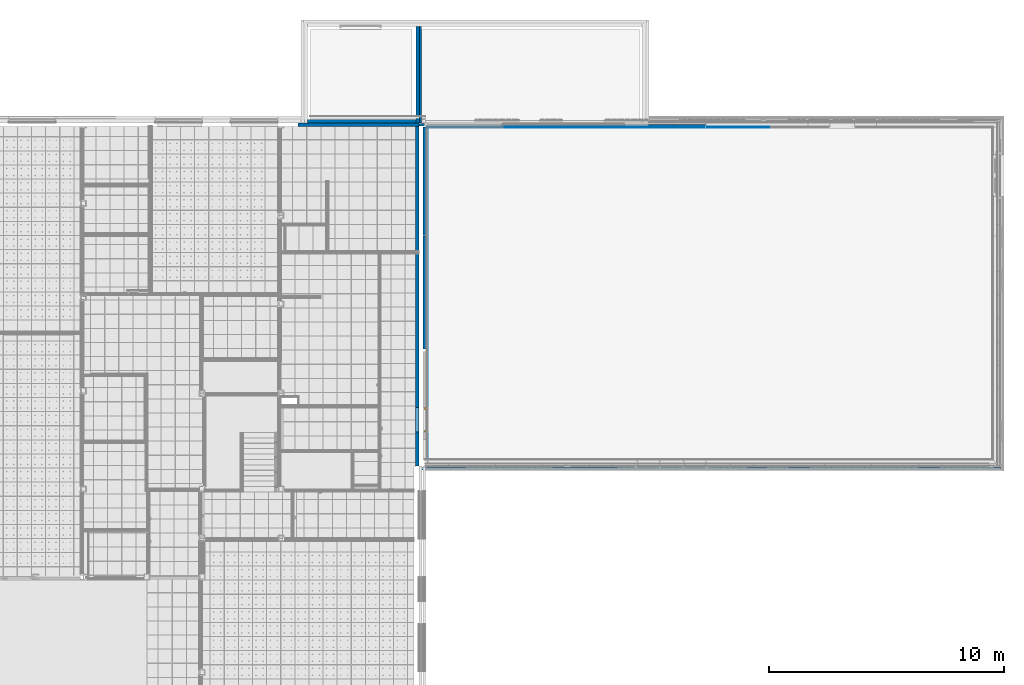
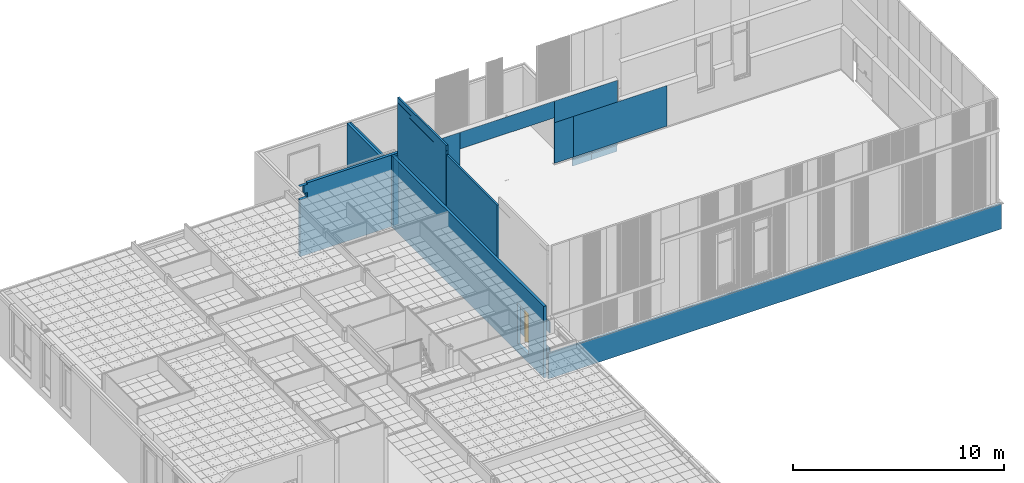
# One storey, part 45 of 338: 17 walls, 1 door, 3 openings.
"""IFC2X3 building model written with IfcOpenShell, lengths in millimetres."""

from ifc_helpers import new_model, entity, si_unit, converted_unit, derived_unit, money_unit, direction, frame, origin_with_axes, place, context, subcontext, project, spatial, faceted_brep, material, type_object, element, fill, save


model = new_model("IFC2X3")

# Units and contexts
model_context = context("Model", 3, precision=0.01, world=origin_with_axes(), true_north=direction((0.0, 1.0)))
plan_context = context("Plan", 3, precision=0.01, world=origin_with_axes(), true_north=direction((0.0, 1.0)))
body_context = subcontext(model_context, "Body", "Model", "MODEL_VIEW")
ifc_project = project(units=[si_unit("LENGTHUNIT", "METRE", prefix="MILLI"), si_unit("AREAUNIT", "SQUARE_METRE"), si_unit("VOLUMEUNIT", "CUBIC_METRE"), converted_unit("PLANEANGLEUNIT", "DEGREE", entity("IfcPlaneAngleMeasure", 0.0174532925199), si_unit("PLANEANGLEUNIT", "RADIAN"), dimensions=[0, 0, 0, 0, 0, 0, 0]), money_unit("EUR"), converted_unit("TIMEUNIT", "Year", entity("IfcTimeMeasure", 31556926.0), si_unit("TIMEUNIT", "SECOND"), dimensions=[0, 0, 1, 0, 0, 0, 0]), si_unit("MASSUNIT", "GRAM", prefix="KILO"), si_unit("THERMODYNAMICTEMPERATUREUNIT", "DEGREE_CELSIUS"), si_unit("LUMINOUSINTENSITYUNIT", "LUMEN"), si_unit("ENERGYUNIT", "JOULE", prefix="MEGA"), derived_unit("THERMALCONDUCTANCEUNIT", [(si_unit("POWERUNIT", "WATT"), 1), (si_unit("LENGTHUNIT", "METRE"), -1), (si_unit("THERMODYNAMICTEMPERATUREUNIT", "KELVIN"), -1)]), derived_unit("SPECIFICHEATCAPACITYUNIT", [(si_unit("ENERGYUNIT", "JOULE"), 1), (si_unit("MASSUNIT", "GRAM", prefix="KILO"), -1), (si_unit("THERMODYNAMICTEMPERATUREUNIT", "KELVIN"), -1)]), derived_unit("MASSDENSITYUNIT", [(si_unit("MASSUNIT", "GRAM", prefix="KILO"), 1), (si_unit("VOLUMEUNIT", "CUBIC_METRE"), -1)])], contexts=[model_context, plan_context])

# Site, building, storey
site_placement = place(None, origin_with_axes())
site = spatial("IfcSite", under=ifc_project, at=site_placement, Name="Fortuinstraat Woensdrecht", CompositionType="ELEMENT")
building_placement = place(site_placement, origin_with_axes())
building = spatial("IfcBuilding", under=site, at=building_placement, Name="IKC Fortuna", CompositionType="ELEMENT")
storey_placement = place(building_placement, origin_with_axes())
storey = spatial("IfcBuildingStorey", under=building, at=storey_placement, Name="00 begane grond", CompositionType="ELEMENT", Elevation=0.0)

# Wall, opening
ifc_material_1 = material(Name="Steen - Kalkzandsteen C")
wall_type_1 = type_object("IfcWallType", Name="Steen - Kalkzandsteen C 150", PredefinedType="NOTDEFINED")
wall_1_placement = place(storey_placement, frame((34833.4270571, 20912.2966283, -485.0), z_axis=(0.0, 0.0, 1.0), x_axis=(0.0, 1.0, 0.0)))
wall_1 = element("IfcWall", 1, at=wall_1_placement, inside=storey, type_object=wall_type_1, material=ifc_material_1, Name="22_Wand_KZST", context=body_context, shape_type="Brep", body=[
    faceted_brep([(2472.2169201, 150.0, 485.0), (2472.2169201, 0.0, 485.0), (2472.2169201, 0.0, 2852.0), (2472.2169201, 150.0, 2852.0), (1438.2169201, 0.0, 485.0), (1438.2169201, 150.0, 485.0), (14434.0, 0.0, 0.0), (14434.0, 0.0, 3995.0), (14434.0, 0.0, 4135.0), (0.0, 0.0, 4135.0), (0.0, 0.0, 0.0), (1438.2169201, 0.0, 2852.0), (1438.2169201, 150.0, 2852.0), (14434.0, 150.0, 0.0), (0.0, 150.0, 0.0), (0.0, 150.0, 4135.0), (14434.0, 150.0, 4135.0)], [[[0, 1, 2, 3]], [[4, 1, 0, 5]], [[6, 7, 8, 9, 10], [4, 11, 2, 1]], [[3, 2, 11, 12]], [[13, 14, 15, 16], [0, 3, 12, 5]], [[11, 4, 5, 12]], [[6, 13, 16, 8, 7]], [[16, 15, 9, 8]], [[10, 9, 15, 14]], [[6, 10, 14, 13]]]),
])
opening_1_placement = place(wall_1_placement, frame((1955.2169201, 0.0, 485.0), z_axis=(0.0, 0.0, 1.0), x_axis=(1.0, 0.0, 0.0)))
element("IfcOpeningElement", 2, at=opening_1_placement, cuts=wall_1, Name="__Leeg", context=body_context, shape_type="Brep", body=[
    faceted_brep([(517.0, 300.0, 0.0), (517.0, 300.0, 2367.0), (517.0, 129.0, 2367.0), (517.0, 129.0, 0.0), (-517.0, 300.0, 0.0), (-517.0, 300.0, 2367.0), (-517.0, 129.0, 2367.0), (-517.0, 129.0, 0.0)], [[[0, 1, 2, 3]], [[0, 4, 5, 1]], [[1, 5, 6, 2]], [[3, 2, 6, 7]], [[4, 0, 3, 7]], [[5, 4, 7, 6]]]),
    faceted_brep([(517.0, -42.0, 2367.0), (517.0, -42.0, 0.0), (517.0, 129.0, 0.0), (517.0, 129.0, 2367.0), (-517.0, -42.0, 2367.0), (-517.0, -42.0, 0.0), (-517.0, 129.0, 0.0), (-517.0, 129.0, 2367.0)], [[[0, 1, 2, 3]], [[0, 4, 5, 1]], [[1, 5, 6, 2]], [[3, 2, 6, 7]], [[4, 0, 3, 7]], [[5, 4, 7, 6]]]),
])

# Walls
wall_2_placement = place(storey_placement, frame((34833.4270571, 35496.2966283, -485.0), z_axis=(0.0, 0.0, 1.0), x_axis=(-1.0, 0.0, 0.0)))
element("IfcWall", 3, at=wall_2_placement, inside=storey, type_object=wall_type_1, material=ifc_material_1, Name="22_Wand_KZST", context=body_context, shape_type="Brep", body=[
    faceted_brep([(-280.0, 0.100000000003, 3995.0), (-280.0, 0.100000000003, 4135.0), (-280.0, 150.0, 4134.9999994), (-280.0, 150.0, 3995.0), (0.0, 0.100000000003, 3995.0), (0.0, 0.100000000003, 4135.0), (0.0, 0.0, 4135.0), (4727.99206067, 0.0, 4135.0), (4727.99206067, 150.0, 4135.0), (4907.99301867, 150.0, 3585.0), (4727.99301267, 150.0, 3585.0), (4727.99301267, 150.0, 3285.0), (5137.53026346, 150.0, 3285.0), (5137.53026346, 150.0, 0.0), (0.0, 150.0, 0.0), (0.0, 150.0, 3995.0), (4727.99206067, 150.0, 4057.5), (5137.53026346, 150.0, 4057.5), (5137.53026346, 150.0, 4057.45750048), (4908.00253787, 150.0, 4057.45750048), (0.0, 0.0, 3995.0), (0.0, 0.0, 0.0), (5137.53026346, 0.0, 0.0), (5137.53026346, 0.0, 3285.0), (4727.99301267, 0.0, 3285.0), (4727.99301267, 0.0, 3585.0000001), (4907.99301867, 0.0, 3585.0000001), (4908.00253787, 0.0, 4057.45750048), (5137.53026346, 0.0, 4057.45750048), (5137.53026346, 0.0, 4057.5), (4727.99206067, 0.0, 4057.5)], [[[0, 1, 2, 3]], [[4, 5, 1, 0]], [[1, 5, 6, 7, 8, 2]], [[9, 10, 11, 12, 13, 14, 15, 3, 2, 8, 16, 17, 18, 19]], [[15, 4, 0, 3]], [[20, 6, 5, 4, 15, 14, 21]], [[7, 6, 20, 21, 22, 23, 24, 25, 26, 27, 28, 29, 30]], [[30, 16, 8, 7]], [[9, 26, 25, 10]], [[11, 10, 25, 24]], [[11, 24, 23, 12]], [[13, 12, 23, 22]], [[13, 22, 21, 14]], [[17, 16, 30, 29]], [[29, 28, 18, 17]], [[18, 28, 27, 19]], [[27, 26, 9, 19]]]),
])
wall_type_2 = type_object("IfcWallType", Name="Steen - Kalkzandsteen C 100", PredefinedType="NOTDEFINED")
wall_3_placement = place(storey_placement, frame((45636.4270571, 35425.2966282, -485.0), z_axis=(0.0, 0.0, 1.0), x_axis=(-1.0, 0.0, 0.0)))
element("IfcWall", 4, at=wall_3_placement, inside=storey, type_object=wall_type_2, material=ifc_material_1, Name="22_Wand_KZST", context=body_context, shape_type="Brep", body=[
    faceted_brep([(0.0, 100.0, 395.0), (0.0, 48.999999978, 395.0), (0.0, 48.999999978, 0.0), (0.0, 0.0, 0.0), (0.0, 0.0, 3214.0), (0.0, 100.0, 3214.0), (1032.99997211, 48.999999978, 395.0), (1032.99997211, 100.0, 395.0), (1032.99997211, 48.999999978, 0.0), (1032.99997211, 0.0, 0.0), (1032.99997211, 0.0, 3214.0), (1032.99997211, 100.0, 3214.0)], [[[0, 1, 2, 3, 4, 5]], [[6, 1, 0, 7]], [[2, 1, 6, 8]], [[3, 2, 8, 9]], [[4, 3, 9, 10]], [[5, 4, 10, 11]], [[11, 7, 0, 5]], [[8, 6, 7, 11, 10, 9]]]),
])
wall_4_placement = place(storey_placement, frame((35082.3258224, 35476.2966283, -485.0), z_axis=(0.0, 0.0, 1.0), x_axis=(-1.0, 0.0, 0.0)))
element("IfcWall", 5, at=wall_4_placement, inside=storey, type_object=wall_type_2, material=ifc_material_1, Name="22_Wand_KZST", context=body_context, shape_type="Brep", body=[
    faceted_brep([(248.898765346, 0.0, 3986.30592684), (248.898765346, 100.0, 3986.30592684), (0.0, 100.0, 3986.30592684), (0.0, 0.0, 3986.30592684), (248.898765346, 0.0, 0.0), (248.898765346, 100.0, 0.0), (0.0, 100.0, 0.0), (0.0, 0.0, 0.0)], [[[0, 1, 2, 3]], [[1, 0, 4, 5]], [[1, 5, 6, 2]], [[7, 3, 2, 6]], [[4, 0, 3, 7]], [[5, 4, 7, 6]]]),
])
wall_5_placement = place(storey_placement, frame((34953.4270571, 35496.2966283, -485.0), z_axis=(0.0, 0.0, 1.0), x_axis=(0.0, 1.0, 0.0)))
element("IfcWall", 6, at=wall_5_placement, inside=storey, type_object=wall_type_2, material=ifc_material_1, Name="22_Wand_KZST", context=body_context, shape_type="Brep", body=[
    faceted_brep([(0.0, 0.0, 3385.0), (0.0, 0.0, 395.0), (4100.0, 0.0, 395.0), (4099.9999989, 0.0, 3385.0), (0.0, 100.0, 3385.0), (0.0, 100.0, 395.0), (4100.0, 100.0, 395.0), (4099.9999989, 100.0, 3385.0)], [[[0, 1, 2, 3]], [[4, 5, 1, 0]], [[5, 6, 2, 1]], [[3, 2, 6, 7]], [[4, 0, 3, 7]], [[7, 6, 5, 4]]]),
])
wall_6_placement = place(storey_placement, frame((35013.4270571, 35325.2966282, -485.0), z_axis=(0.0, 0.0, 1.0), x_axis=(0.0, -1.0, 0.0)))
element("IfcWall", 7, at=wall_6_placement, inside=storey, type_object=wall_type_2, material=ifc_material_1, Name="22_Wand_KZST", context=body_context, shape_type="Brep", body=[
    faceted_brep([(0.0, 0.0, 7065.8), (0.0, 30.050000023, 7065.8), (0.0, 38.5352813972, 7062.28528137), (0.0, 42.050000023, 7053.8), (0.0, 42.050000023, 6876.2), (0.0, 38.5352813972, 6867.71471863), (0.0, 30.050000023, 6864.2), (0.0, 0.0, 6864.2), (4611.0, 30.050000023, 7065.8), (4611.0, 0.0, 7065.8), (4611.0, 38.5352813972, 7062.28528137), (4611.0, 42.050000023, 7053.8), (4611.0, 42.050000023, 6876.2), (4611.0, 38.5352813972, 6867.71471863), (4611.0, 30.050000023, 6864.2), (4611.0, 0.0, 6864.2)], [[[0, 1, 2, 3, 4, 5, 6, 7]], [[8, 1, 0, 9]], [[10, 2, 1, 8]], [[11, 3, 2, 10]], [[12, 4, 3, 11]], [[13, 5, 4, 12]], [[14, 6, 5, 13]], [[15, 7, 6, 14]], [[15, 9, 0, 7]], [[10, 8, 9, 15, 14, 13, 12, 11]]]),
    faceted_brep([(0.0, 0.0, 0.0), (0.0, 0.0, 6855.0), (0.0, 100.000000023, 6855.0), (0.0, 100.0, 0.0), (4611.0, 0.0, 0.0), (4611.0, 0.0, 6855.0), (4611.0, 100.000000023, 6855.0), (4611.0, 100.0, 0.0)], [[[0, 1, 2, 3]], [[4, 5, 1, 0]], [[5, 6, 2, 1]], [[3, 2, 6, 7]], [[0, 3, 7, 4]], [[7, 6, 5, 4]]]),
    faceted_brep([(0.0, 47.950000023, 7053.8), (0.0, 51.4647186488, 7062.28528137), (0.0, 59.950000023, 7065.8), (0.0, 100.000000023, 7065.8), (0.0, 100.000000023, 6864.2), (0.0, 59.950000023, 6864.2), (0.0, 51.4647186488, 6867.71471863), (0.0, 47.950000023, 6876.2), (4611.0, 51.4647186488, 7062.28528137), (4611.0, 47.950000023, 7053.8), (4611.0, 59.950000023, 7065.8), (4611.0, 100.000000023, 7065.8), (4611.0, 100.000000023, 6864.2), (4611.0, 59.950000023, 6864.2), (4611.0, 51.4647186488, 6867.71471863), (4611.0, 47.950000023, 6876.2)], [[[0, 1, 2, 3, 4, 5, 6, 7]], [[8, 1, 0, 9]], [[10, 2, 1, 8]], [[10, 11, 3, 2]], [[11, 12, 4, 3]], [[13, 5, 4, 12]], [[14, 6, 5, 13]], [[15, 7, 6, 14]], [[9, 0, 7, 15]], [[14, 13, 12, 11, 10, 8, 9, 15]]]),
    faceted_brep([(4611.0, 100.0, 7381.72179229), (4611.0, 100.000000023, 7075.0), (0.0, 100.000000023, 7075.0), (0.0, 100.0, 7381.72179229), (4611.0, 0.0, 7381.72179229), (4611.0, 0.0, 7075.0), (0.0, 0.0, 7075.0), (0.0, 0.0, 7381.72179229)], [[[0, 1, 2, 3]], [[4, 5, 1, 0]], [[5, 6, 2, 1]], [[3, 2, 6, 7]], [[3, 7, 4, 0]], [[7, 6, 5, 4]]]),
])
wall_7_placement = place(storey_placement, frame((35013.4270572, 30678.2966282, -485.0), z_axis=(0.0, 0.0, 1.0), x_axis=(0.0, -1.0, 0.0)))
element("IfcWall", 8, at=wall_7_placement, inside=storey, type_object=wall_type_2, material=ifc_material_1, Name="22_Wand_KZST", context=body_context, shape_type="Brep", body=[
    faceted_brep([(0.0, 100.0, 6855.0), (0.0, 0.0, 6855.0), (4792.0, 0.0, 6855.0), (4792.0, 100.0, 6855.0), (0.0, 100.0, 0.0), (0.0, 0.0, 0.0), (4792.0, 0.0, 0.0), (4792.0, 100.0, 0.0)], [[[0, 1, 2, 3]], [[4, 5, 1, 0]], [[1, 5, 6, 2]], [[7, 3, 2, 6]], [[4, 0, 3, 7]], [[5, 4, 7, 6]]]),
])
wall_8_placement = place(storey_placement, frame((47043.4270571, 35425.2966282, -485.0), z_axis=(0.0, 0.0, 1.0), x_axis=(-1.0, 0.0, 0.0)))
element("IfcWall", 9, at=wall_8_placement, inside=storey, type_object=wall_type_2, material=ifc_material_1, Name="22_Wand_KZST", context=body_context, shape_type="Brep", body=[
    faceted_brep([(0.0, 100.0, 395.0), (0.0, 48.999999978, 395.0), (0.0, 48.999999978, 0.0), (0.0, 0.0, 0.0), (0.0, 0.0, 3214.0), (0.0, 100.0, 3214.0), (1407.00000006, 48.999999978, 395.0), (1407.00000006, 100.0, 395.0), (1407.00000006, 48.999999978, 0.0), (1407.00000006, 0.0, 0.0), (1407.00000006, 0.0, 3214.0), (1407.00000006, 100.0, 3214.0)], [[[0, 1, 2, 3, 4, 5]], [[6, 1, 0, 7]], [[2, 1, 6, 8]], [[3, 2, 8, 9]], [[4, 3, 9, 10]], [[5, 4, 10, 11]], [[11, 7, 0, 5]], [[8, 6, 7, 11, 10, 9]]]),
])
ifc_material_2 = material(Name="Steen - Baksteen Accent")
wall_type_3 = type_object("IfcWallType", Name="Steen - Baksteen Accent 100", PredefinedType="NOTDEFINED")
wall_9_placement = place(storey_placement, frame((59593.4270571, 20836.3041182, -483.776097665), z_axis=(0.0, 0.0, 1.0), x_axis=(-1.0, 0.0, 0.0)))
element("IfcWall", 10, at=wall_9_placement, inside=storey, type_object=wall_type_3, material=ifc_material_2, Name="21_Wand_sandwichplaat", context=body_context, shape_type="Brep", body=[
    faceted_brep([(0.0, 50.0027010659, 1458.71632341), (0.0, 50.0027010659, 1457.71632341), (0.0, 100.002701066, 1457.71632341), (0.0, 100.0, 0.0), (0.0, 0.0, 0.0), (0.0, 0.0, 1458.77609766), (0.0, 100.0, 1458.77609766), (0.0, 100.0, 1458.71632341), (24480.0, 50.0027010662, 1457.71632341), (24480.0, 50.0027010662, 1458.71632341), (24480.0, 100.002701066, 1457.71632341), (24480.0, 100.0, 1458.71632341), (24756.9920806, 100.0, 1458.77609766), (24756.9920806, 100.0, 0.0), (24756.9920806, 0.0, 0.0), (24756.9920806, 0.0, 1458.77609766)], [[[0, 1, 2, 3, 4, 5, 6, 7]], [[8, 1, 0, 9]], [[10, 2, 1, 8]], [[10, 11, 7, 6, 12, 13, 3, 2]], [[4, 3, 13, 14]], [[5, 4, 14, 15]], [[6, 5, 15, 12]], [[9, 0, 7, 11]], [[9, 11, 10, 8]], [[13, 12, 15, 14]]]),
])
ifc_material_3 = material(Name="42 Vilton Isonic Wool")
wall_type_4 = type_object("IfcWallType", Name="42 Vilton Isonic Wool 33", PredefinedType="NOTDEFINED")
wall_10_placement = place(storey_placement, frame((35174.9270571, 35325.2966282, 90.0), z_axis=(0.0, 0.0, 1.0), x_axis=(1.0, 0.0, 0.0)))
element("IfcWall", 11, at=wall_10_placement, inside=storey, type_object=wall_type_4, material=ifc_material_3, Name="22_Wand_KZST", context=body_context, shape_type="Brep", body=[
    faceted_brep([(0.0, 0.0, 0.0), (0.0, 0.0, 2350.0), (0.0, 0.0, 3600.0), (3233.49999994, 0.0, 3600.0), (3233.49999994, 0.0, 0.0), (0.0, -33.0, 0.0), (0.0, -33.0, 2350.0), (0.0, -33.0, 3600.0), (3233.49999994, -33.0, 3600.0), (3233.49999994, -33.0, 0.0)], [[[0, 1, 2, 3, 4]], [[5, 6, 7, 2, 1, 0]], [[3, 2, 7, 8]], [[8, 9, 4, 3]], [[9, 5, 0, 4]], [[8, 7, 6, 5, 9]]]),
])
wall_11_placement = place(storey_placement, frame((43573.4270571, 35325.2966282, 90.0), z_axis=(0.0, 0.0, 1.0), x_axis=(1.0, 0.0, 0.0)))
element("IfcWall", 12, at=wall_11_placement, inside=storey, type_object=wall_type_4, material=ifc_material_3, Name="22_Wand_Vilton Isonic Wool", context=body_context, shape_type="Brep", body=[
    faceted_brep([(0.0, 0.0, 0.0), (1030.00002789, 0.0, 0.0), (1030.00002789, -33.0, 0.0), (0.0, -33.0, 0.0), (0.0, 0.0, 2350.0), (1030.00002789, 0.0, 2350.0), (1030.00002789, -33.0, 2350.0), (0.0, -33.0, 2350.0)], [[[0, 1, 2, 3]], [[4, 5, 1, 0]], [[2, 1, 5, 6]], [[3, 2, 6, 7]], [[4, 0, 3, 7]], [[7, 6, 5, 4]]]),
])

# Wall, openings, door
wall_12_placement = place(storey_placement, frame((35174.9270571, 21166.4346144, 90.0), z_axis=(0.0, 0.0, 1.0), x_axis=(0.0, 1.0, 0.0)))
wall_12 = element("IfcWall", 13, at=wall_12_placement, inside=storey, type_object=wall_type_4, material=ifc_material_3, Name="22_Wand_vzw", context=body_context, shape_type="Brep", body=[
    faceted_brep([(1184.07893398, -12.0, 0.0), (1184.07893398, 0.0, 0.0), (1184.07893398, 0.0, 2350.0), (1184.07893398, -12.0, 2350.0), (1184.07893398, -33.0, 2350.0), (1184.07893398, -33.0, 0.0), (33.0, -33.0, 0.0), (33.0, 0.0, 0.0), (33.0, 0.0, 820.0), (861.862013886, 0.0, 820.0), (861.862013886, 0.0, 1662.0), (33.0, 0.0, 1662.0), (33.0, 0.0, 2350.0), (40.0121249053, 0.0, 2350.0), (49.409062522, 0.0, 2346.57979441), (50.6539155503, 0.0, 2350.0), (50.6539155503, -33.0, 2350.0), (861.862013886, -33.0, 820.0), (33.0, -33.0, 820.0), (49.409062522, -33.0, 2346.57979441), (40.0121249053, -33.0, 2350.0), (33.0, -33.0, 2350.0), (33.0, -33.0, 1662.0), (861.862013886, -33.0, 1662.0)], [[[0, 1, 2, 3, 4, 5]], [[1, 0, 5, 6, 7]], [[2, 1, 7, 8, 9, 10, 11, 12, 13, 14, 15]], [[3, 2, 15, 16, 4]], [[17, 18, 6, 5, 4, 16, 19, 20, 21, 22, 23]], [[8, 7, 6, 18]], [[8, 18, 17, 9]], [[9, 17, 23, 10]], [[10, 23, 22, 11]], [[21, 12, 11, 22]], [[20, 13, 12, 21]], [[20, 19, 14, 13]], [[19, 16, 15, 14]]]),
    faceted_brep([(2218.07893398, 0.0, 2350.0), (2218.07893398, -12.0, 2350.0), (2218.07893398, -33.0, 2350.0), (14125.8620139, -33.0, 2350.0), (14125.8620139, 0.0, 2350.0), (2218.07893398, 0.0, 0.0), (2218.07893398, -12.0, 0.0), (2218.07893398, -33.0, 0.0), (14125.8620139, -33.0, 0.0), (14125.8620139, 0.0, 0.0)], [[[0, 1, 2, 3, 4]], [[1, 0, 5, 6, 7, 2]], [[7, 8, 3, 2]], [[8, 9, 4, 3]], [[5, 0, 4, 9]], [[6, 5, 9, 8, 7]]]),
])
opening_2_placement = place(wall_12_placement, frame((1701.07893398, 0.0, -90.0), z_axis=(0.0, 0.0, 1.0), x_axis=(1.0, 0.0, 0.0)))
opening_2 = element("IfcOpeningElement", 14, at=opening_2_placement, cuts=wall_12, Name="32_Deur_h.01a", context=body_context, shape_type="Brep", body=[
    faceted_brep([(-517.0, -66.0, 0.0), (-517.0, -66.0, 2447.0), (-517.0, -12.0, 2447.0), (-517.0, -12.0, 0.0), (517.0, -66.0, 0.0), (517.0, -66.0, 2447.0), (517.0, -12.0, 2447.0), (517.0, -12.0, 0.0)], [[[0, 1, 2, 3]], [[0, 4, 5, 1]], [[1, 5, 6, 2]], [[3, 2, 6, 7]], [[4, 0, 3, 7]], [[5, 4, 7, 6]]]),
    faceted_brep([(-517.0, 33.0, 2447.0), (-517.0, 33.0, 0.0), (-517.0, -12.0, 0.0), (-517.0, -12.0, 2447.0), (517.0, 33.0, 2447.0), (517.0, 33.0, 0.0), (517.0, -12.0, 0.0), (517.0, -12.0, 2447.0)], [[[0, 1, 2, 3]], [[0, 4, 5, 1]], [[1, 5, 6, 2]], [[3, 2, 6, 7]], [[4, 0, 3, 7]], [[5, 4, 7, 6]]]),
])
opening_3_placement = place(wall_12_placement, frame((-21166.4346144, 35174.9270571, -90.0), z_axis=(0.0, 0.0, 1.0), x_axis=(0.0, -1.0, 0.0)))
element("IfcOpeningElement", 15, at=opening_3_placement, cuts=wall_12, Name="_Lege opening_Opening-x", context=body_context, shape_type="Brep", body=[
    faceted_brep([(35402.4270571, 21186.2966283, 910.0), (35402.4270571, 21186.2966283, 1752.0), (34818.9270571, 21186.2966283, 1752.0), (34818.9270571, 21186.2966283, 910.0), (35402.4270571, 22028.2966283, 910.0), (35402.4270571, 22028.2966283, 1752.0), (34818.9270571, 22028.2966283, 1752.0), (34818.9270571, 22028.2966283, 910.0)], [[[0, 1, 2, 3]], [[0, 4, 5, 1]], [[1, 5, 6, 2]], [[3, 2, 6, 7]], [[4, 0, 3, 7]], [[5, 4, 7, 6]]]),
])
door_style = type_object("IfcDoorStyle", Name="D1 25", ConstructionType="NOTDEFINED", OperationType="SINGLE_SWING_RIGHT", ParameterTakesPrecedence=False, Sizeable=False)
door_placement = place(opening_2_placement, frame((517.0, 0.0, 0.0), z_axis=(0.0, 0.0, 1.0), x_axis=(-1.0, 0.0, 0.0)))
door = element("IfcDoor", 16, at=door_placement, inside=storey, type_object=door_style, Name="32_Deur_h.01a", ObjectType="DOOR", OverallHeight=2367.0, OverallWidth=1034.0, context=body_context, shape_type="Brep", body=[
    faceted_brep([(67.0, -28.0, 0.0), (67.0, -28.0, 2300.0), (67.0, -102.0, 2300.0), (67.0, -102.0, 0.0), (50.0, -28.0, 2300.0), (50.0, -28.0, 0.0), (50.0, 12.0, 2300.0), (0.0, 12.0, 2300.0), (0.0, -102.0, 2300.0), (0.0, -102.0, 0.0), (0.0, 12.0, 0.0), (50.0, 12.0, 0.0)], [[[0, 1, 2, 3]], [[4, 1, 0, 5]], [[4, 6, 7, 8, 2, 1]], [[3, 2, 8, 9]], [[5, 0, 3, 9, 10, 11]], [[6, 4, 5, 11]], [[6, 11, 10, 7]], [[10, 9, 8, 7]]]),
    faceted_brep([(984.0, -28.0, 2300.0), (967.0, -28.0, 2300.0), (967.0, -102.0, 2300.0), (1034.0, -102.0, 2300.0), (1034.0, 12.0, 2300.0), (984.0, 12.0, 2300.0), (984.0, -28.0, 0.0), (967.0, -28.0, 0.0), (967.0, -102.0, 0.0), (1034.0, -102.0, 0.0), (1034.0, 12.0, 0.0), (984.0, 12.0, 0.0)], [[[0, 1, 2, 3, 4, 5]], [[1, 0, 6, 7]], [[1, 7, 8, 2]], [[3, 2, 8, 9]], [[4, 3, 9, 10]], [[11, 5, 4, 10]], [[0, 5, 11, 6]], [[6, 11, 10, 9, 8, 7]]]),
    faceted_brep([(50.0, 12.0, 2317.0), (50.0, 12.0, 2300.0), (0.0, 12.0, 2300.0), (0.0, 12.0, 2367.0), (1034.0, 12.0, 2367.0), (1034.0, 12.0, 2300.0), (984.0, 12.0, 2300.0), (984.0, 12.0, 2317.0), (50.0, -28.0, 2317.0), (50.0, -28.0, 2300.0), (67.0, -28.0, 2300.0), (67.0, -102.0, 2300.0), (0.0, -102.0, 2300.0), (0.0, -102.0, 2367.0), (1034.0, -102.0, 2367.0), (1034.0, -102.0, 2300.0), (984.0, -28.0, 2300.0), (967.0, -102.0, 2300.0), (967.0, -28.0, 2300.0), (984.0, -28.0, 2317.0)], [[[0, 1, 2, 3, 4, 5, 6, 7]], [[1, 0, 8, 9]], [[9, 10, 11, 12, 2, 1]], [[2, 12, 13, 3]], [[3, 13, 14, 4]], [[4, 14, 15, 5]], [[16, 6, 5, 15, 17, 18]], [[7, 6, 16, 19]], [[0, 7, 19, 8]], [[16, 18, 10, 9, 8, 19]], [[10, 18, 17, 11]], [[17, 15, 14, 13, 12, 11]]]),
    faceted_brep([(984.0, 12.0, 0.0), (984.0, -28.0, 0.0), (50.0, -28.0, 0.0), (50.0, 12.0, 0.0), (984.0, 12.0, 2317.0), (984.0, -28.0, 2317.0), (50.0, -28.0, 2317.0), (50.0, 12.0, 2317.0)], [[[0, 1, 2, 3]], [[4, 5, 1, 0]], [[1, 5, 6, 2]], [[3, 2, 6, 7]], [[0, 3, 7, 4]], [[7, 6, 5, 4]]]),
])
fill(opening_2, door)

# Walls
wall_13_placement = place(storey_placement, frame((44603.427085, 35325.2966282, 90.0), z_axis=(0.0, 0.0, 1.0), x_axis=(1.0, 0.0, 0.0)))
element("IfcWall", 17, at=wall_13_placement, inside=storey, type_object=wall_type_4, material=ifc_material_3, Name="22_Wand_Vilton Isonic Wool", context=body_context, shape_type="Brep", body=[
    faceted_brep([(0.0, 0.0, 0.0), (5132.99997211, 0.0, 0.0), (5132.99997211, -33.0, 0.0), (0.0, -33.0, 0.0), (0.0, 0.0, 2350.0), (5132.99997211, 0.0, 2350.0), (5132.99997211, -33.0, 2350.0), (0.0, -33.0, 2350.0)], [[[0, 1, 2, 3]], [[4, 5, 1, 0]], [[2, 1, 5, 6]], [[3, 2, 6, 7]], [[4, 0, 3, 7]], [[7, 6, 5, 4]]]),
])
wall_14_placement = place(storey_placement, frame((38408.4270571, 35325.2966282, 2729.0), z_axis=(0.0, 0.0, 1.0), x_axis=(1.0, 0.0, 0.0)))
element("IfcWall", 18, at=wall_14_placement, inside=storey, type_object=wall_type_4, material=ifc_material_3, Name="22_Wand_KZST", context=body_context, shape_type="Brep", body=[
    faceted_brep([(0.0, 0.0, 0.0), (5165.0, 0.0, 0.0), (5165.0, -33.0, 0.0), (0.0, -33.0, 0.0), (0.0, 0.0, 961.0), (5165.0, 0.0, 961.0), (5165.0, -33.0, 961.0), (0.0, -33.0, 961.0)], [[[0, 1, 2, 3]], [[4, 5, 1, 0]], [[2, 1, 5, 6]], [[3, 2, 6, 7]], [[4, 0, 3, 7]], [[7, 6, 5, 4]]]),
])
wall_15_placement = place(storey_placement, frame((43573.4270571, 35325.2966282, 2440.0), z_axis=(0.0, 0.0, 1.0), x_axis=(1.0, 0.0, 0.0)))
element("IfcWall", 19, at=wall_15_placement, inside=storey, type_object=wall_type_4, material=ifc_material_3, Name="22_Wand_Vilton Isonic Wool", context=body_context, shape_type="Brep", body=[
    faceted_brep([(0.0, -33.0, 0.0), (0.0, 0.0, 0.0), (3458.00000008, 0.0, 0.0), (3458.00000008, -33.0, 0.0), (0.0, -33.0, 1250.0), (0.0, 0.0, 1250.0), (3458.00000008, 0.0, 1250.0), (3458.00000008, -33.0, 1250.0)], [[[0, 1, 2, 3]], [[4, 5, 1, 0]], [[1, 5, 6, 2]], [[7, 3, 2, 6]], [[4, 0, 3, 7]], [[5, 4, 7, 6]]]),
])
ifc_material_4 = material(Name="ALG - ISOLATIE")
wall_type_5 = type_object("IfcWallType", Name="ALG - ISOLATIE 140", PredefinedType="NOTDEFINED")
wall_16_placement = place(storey_placement, frame((34853.4270571, 35493.9872272, -485.0), z_axis=(0.0, 0.0, 1.0), x_axis=(0.0, 1.0, 0.0)))
element("IfcWall", 20, at=wall_16_placement, inside=storey, type_object=wall_type_5, material=ifc_material_4, Name="21_Wand_KZST", context=body_context, shape_type="Brep", body=[
    faceted_brep([(2.30940111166, 0.0, 0.0), (2.30940111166, 0.0, 395.0), (4100.0, 0.0, 395.0), (4100.0, 0.0, 3385.0), (0.0, 0.0, 3385.0), (0.0, 0.0, 0.0), (2.30940111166, 4.00000006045, 0.0), (2.30940111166, 4.00000006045, 395.0), (4100.0, 4.00000006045, 395.0), (4100.0, 4.00000006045, 0.0), (4100.0, 140.0, 0.0), (4100.0, 140.0, 3385.0), (0.0, 140.0, 3385.0), (0.0, 140.0, 0.0)], [[[0, 1, 2, 3, 4, 5]], [[6, 7, 1, 0]], [[7, 8, 2, 1]], [[2, 8, 9, 10, 11, 3]], [[12, 4, 3, 11]], [[13, 5, 4, 12]], [[9, 6, 0, 5, 13, 10]], [[9, 8, 7, 6]], [[13, 12, 11, 10]]]),
])
wall_17_placement = place(storey_placement, frame((30105.4349964, 35496.2966283, -485.0), z_axis=(0.0, 0.0, 1.0), x_axis=(1.0, 0.0, 0.0)))
element("IfcWall", 21, at=wall_17_placement, inside=storey, type_object=wall_type_5, material=ifc_material_4, Name="21_Wand_KZST", context=body_context, shape_type="Brep", body=[
    faceted_brep([(-3.0534014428e-05, 140.0, 0.0), (-0.000951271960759, 140.0, 3385.0), (4743.99206067, 140.0, 3385.0), (4743.99206067, 140.0, 0.0), (-0.000951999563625, 0.0, 3285.0), (-0.000951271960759, 0.0, 3385.0), (0.0, 0.0, 0.0), (4743.99206067, 0.0, 3385.0), (4743.99206067, 0.0, 0.0)], [[[0, 1, 2, 3]], [[4, 5, 1, 0, 6]], [[5, 7, 2, 1]], [[3, 2, 7, 8]], [[3, 8, 6, 0]], [[8, 7, 5, 4, 6]]]),
])

save(model, "model.ifc")
